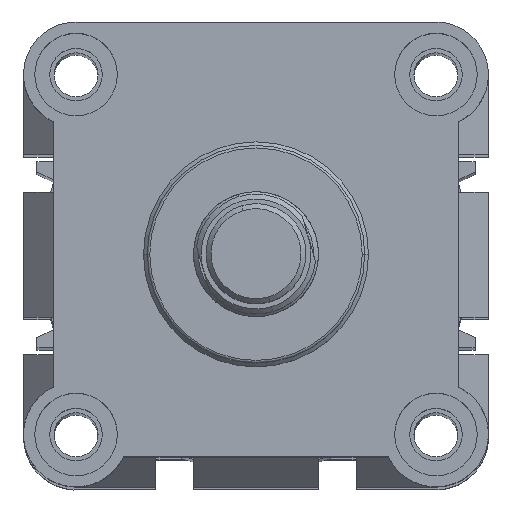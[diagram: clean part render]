
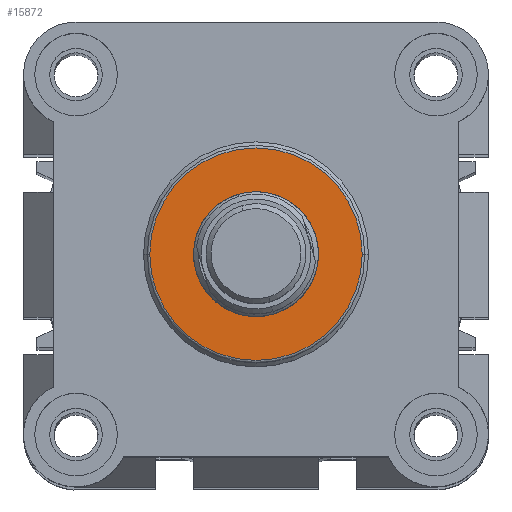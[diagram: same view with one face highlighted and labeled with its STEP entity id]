
A CAD part, top view. The second image highlights one B-rep face of the part: STEP entity #15872.
In plain terms, the highlighted planar face has unit normal (0, 0, 1) as drawn and (0, 0, -1) by its records, which use the part's own axes.
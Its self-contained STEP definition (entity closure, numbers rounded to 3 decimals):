
#217 = DIRECTION ( 'NONE',  ( -1., 0., 0. ) ) ;
#273 = DIRECTION ( 'NONE',  ( -1., 0., 0. ) ) ;
#712 = CARTESIAN_POINT ( 'NONE',  ( 46.5, 46.5, -34.7 ) ) ;
#1051 = CARTESIAN_POINT ( 'NONE',  ( 46.5, 46.5, -34.7 ) ) ;
#1804 = CARTESIAN_POINT ( 'NONE',  ( 59., 46.5, -34.7 ) ) ;
#3345 = DIRECTION ( 'NONE',  ( -1., 0., 0. ) ) ;
#3628 = EDGE_LOOP ( 'NONE', ( #12480, #9669 ) ) ;
#4468 = CIRCLE ( 'NONE', #13092, 21.25 ) ;
#4916 = AXIS2_PLACEMENT_3D ( 'NONE', #15651, #16992, #3345 ) ;
#6088 = AXIS2_PLACEMENT_3D ( 'NONE', #1051, #13126, #8735 ) ;
#6314 = CARTESIAN_POINT ( 'NONE',  ( 67.75, 46.5, -34.7 ) ) ;
#6525 = EDGE_CURVE ( 'NONE', #15234, #14721, #4468, .T. ) ;
#6560 = DIRECTION ( 'NONE',  ( 0., 0., -1. ) ) ;
#7052 = ORIENTED_EDGE ( 'NONE', *, *, #6525, .T. ) ;
#7344 = CIRCLE ( 'NONE', #6088, 21.25 ) ;
#8735 = DIRECTION ( 'NONE',  ( -1., 0., 0. ) ) ;
#9220 = DIRECTION ( 'NONE',  ( 0., 0., -1. ) ) ;
#9482 = CARTESIAN_POINT ( 'NONE',  ( 46.5, 46.5, -34.7 ) ) ;
#9669 = ORIENTED_EDGE ( 'NONE', *, *, #18540, .F. ) ;
#9702 = EDGE_CURVE ( 'NONE', #14721, #15234, #7344, .T. ) ;
#9705 = PLANE ( 'NONE',  #14091 ) ;
#10078 = EDGE_LOOP ( 'NONE', ( #7052, #19528 ) ) ;
#10358 = AXIS2_PLACEMENT_3D ( 'NONE', #9482, #6560, #217 ) ;
#11172 = DIRECTION ( 'NONE',  ( 0., 0., -1. ) ) ;
#12480 = ORIENTED_EDGE ( 'NONE', *, *, #15279, .F. ) ;
#12505 = FACE_OUTER_BOUND ( 'NONE', #10078, .T. ) ;
#13092 = AXIS2_PLACEMENT_3D ( 'NONE', #16782, #9220, #273 ) ;
#13126 = DIRECTION ( 'NONE',  ( 0., 0., -1. ) ) ;
#14091 = AXIS2_PLACEMENT_3D ( 'NONE', #712, #11172, #15871 ) ;
#14721 = VERTEX_POINT ( 'NONE', #6314 ) ;
#15234 = VERTEX_POINT ( 'NONE', #15533 ) ;
#15279 = EDGE_CURVE ( 'NONE', #16631, #16252, #18228, .T. ) ;
#15533 = CARTESIAN_POINT ( 'NONE',  ( 25.25, 46.5, -34.7 ) ) ;
#15651 = CARTESIAN_POINT ( 'NONE',  ( 46.5, 46.5, -34.7 ) ) ;
#15766 = CARTESIAN_POINT ( 'NONE',  ( 34., 46.5, -34.7 ) ) ;
#15871 = DIRECTION ( 'NONE',  ( -1., 0., 0. ) ) ;
#15872 = ADVANCED_FACE ( 'NONE', ( #16541, #12505 ), #9705, .T. ) ;
#16252 = VERTEX_POINT ( 'NONE', #1804 ) ;
#16385 = CIRCLE ( 'NONE', #10358, 12.5 ) ;
#16541 = FACE_BOUND ( 'NONE', #3628, .T. ) ;
#16631 = VERTEX_POINT ( 'NONE', #15766 ) ;
#16782 = CARTESIAN_POINT ( 'NONE',  ( 46.5, 46.5, -34.7 ) ) ;
#16992 = DIRECTION ( 'NONE',  ( 0., 0., -1. ) ) ;
#18228 = CIRCLE ( 'NONE', #4916, 12.5 ) ;
#18540 = EDGE_CURVE ( 'NONE', #16252, #16631, #16385, .T. ) ;
#19528 = ORIENTED_EDGE ( 'NONE', *, *, #9702, .T. ) ;
